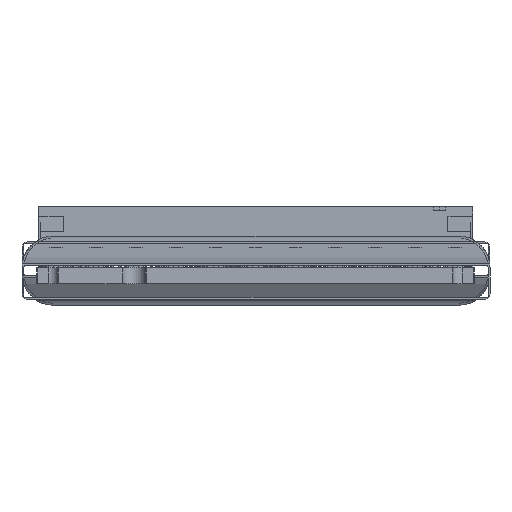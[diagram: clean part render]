
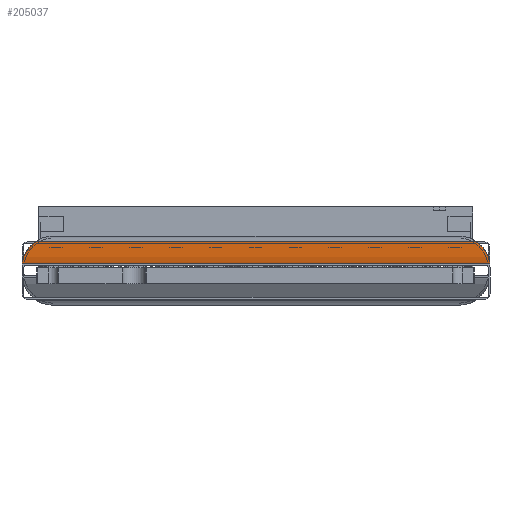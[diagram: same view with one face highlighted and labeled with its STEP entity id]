
A CAD part, front view. The second image highlights one B-rep face of the part: STEP entity #205037.
In plain terms, the highlighted free-form (B-spline) face has degree [3, 1] with [4, 2] control points.
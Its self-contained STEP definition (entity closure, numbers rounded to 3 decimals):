
#204921 = VERTEX_POINT('',#204922);
#204922 = CARTESIAN_POINT('',(23.586,0.,
    0.201));
#204929 = EDGE_CURVE('',#204921,#204930,#204932,.T.);
#204930 = VERTEX_POINT('',#204931);
#204931 = CARTESIAN_POINT('',(0.013,0.,
    0.201));
#204932 = LINE('',#204933,#204934);
#204933 = CARTESIAN_POINT('',(24.829,0.,
    0.201));
#204934 = VECTOR('',#204935,1.);
#204935 = DIRECTION('',(-1.,-0.,-0.));
#204991 = EDGE_CURVE('',#204992,#204994,#204996,.T.);
#204992 = VERTEX_POINT('',#204993);
#204993 = CARTESIAN_POINT('',(22.872,5.989,
    1.34));
#204994 = VERTEX_POINT('',#204995);
#204995 = CARTESIAN_POINT('',(0.727,5.989,
    1.34));
#204996 = LINE('',#204997,#204998);
#204997 = CARTESIAN_POINT('',(24.829,5.989,
    1.34));
#204998 = VECTOR('',#204999,1.);
#204999 = DIRECTION('',(-1.,-0.,-0.));
#205037 = ADVANCED_FACE('',(#205038),#205072,.F.);
#205038 = FACE_BOUND('',#205039,.F.);
#205039 = EDGE_LOOP('',(#205040,#205041,#205056,#205057));
#205040 = ORIENTED_EDGE('',*,*,#204929,.T.);
#205041 = ORIENTED_EDGE('',*,*,#205042,.F.);
#205042 = EDGE_CURVE('',#204994,#204930,#205043,.T.);
#205043 = B_SPLINE_CURVE_WITH_KNOTS('',3,(#205044,#205045,#205046,
    #205047,#205048,#205049,#205050,#205051,#205052,#205053,#205054,
    #205055),.UNSPECIFIED.,.F.,.F.,(4,2,2,2,2,4),(0.,0.001,
    0.002,0.003,0.005,
    0.006),.UNSPECIFIED.);
#205044 = CARTESIAN_POINT('',(0.727,5.989,
    1.34));
#205045 = CARTESIAN_POINT('',(0.601,5.774,
    1.259));
#205046 = CARTESIAN_POINT('',(0.511,5.546,
    1.177));
#205047 = CARTESIAN_POINT('',(0.363,5.077,
    1.02));
#205048 = CARTESIAN_POINT('',(0.306,4.834,
    0.944));
#205049 = CARTESIAN_POINT('',(0.168,4.099,
    0.732));
#205050 = CARTESIAN_POINT('',(0.118,3.598,
    0.611));
#205051 = CARTESIAN_POINT('',(0.051,2.582,
    0.413));
#205052 = CARTESIAN_POINT('',(0.035,2.069,
    0.338));
#205053 = CARTESIAN_POINT('',(0.016,1.037,
    0.233));
#205054 = CARTESIAN_POINT('',(0.013,0.519,
    0.205));
#205055 = CARTESIAN_POINT('',(0.013,0.,
    0.201));
#205056 = ORIENTED_EDGE('',*,*,#204991,.F.);
#205057 = ORIENTED_EDGE('',*,*,#205058,.T.);
#205058 = EDGE_CURVE('',#204992,#204921,#205059,.T.);
#205059 = B_SPLINE_CURVE_WITH_KNOTS('',3,(#205060,#205061,#205062,
    #205063,#205064,#205065,#205066,#205067,#205068,#205069,#205070,
    #205071),.UNSPECIFIED.,.F.,.F.,(4,2,2,2,2,4),(0.,0.001,
    0.002,0.003,0.005,
    0.006),.UNSPECIFIED.);
#205060 = CARTESIAN_POINT('',(22.872,5.989,
    1.34));
#205061 = CARTESIAN_POINT('',(22.997,5.774,
    1.259));
#205062 = CARTESIAN_POINT('',(23.088,5.546,
    1.177));
#205063 = CARTESIAN_POINT('',(23.236,5.077,
    1.02));
#205064 = CARTESIAN_POINT('',(23.293,4.834,
    0.944));
#205065 = CARTESIAN_POINT('',(23.431,4.099,
    0.732));
#205066 = CARTESIAN_POINT('',(23.481,3.598,
    0.611));
#205067 = CARTESIAN_POINT('',(23.548,2.582,
    0.413));
#205068 = CARTESIAN_POINT('',(23.564,2.069,
    0.338));
#205069 = CARTESIAN_POINT('',(23.583,1.037,
    0.233));
#205070 = CARTESIAN_POINT('',(23.586,0.519,
    0.205));
#205071 = CARTESIAN_POINT('',(23.586,0.,
    0.201));
#205072 = B_SPLINE_SURFACE_WITH_KNOTS('',3,1,(
    (#205073,#205074)
    ,(#205075,#205076)
    ,(#205077,#205078)
    ,(#205079,#205080
    )),.UNSPECIFIED.,.F.,.F.,.F.,(4,4),(2,2),(0.095,
    0.957),(0.,1.),.PIECEWISE_BEZIER_KNOTS.);
#205073 = CARTESIAN_POINT('',(23.728,5.989,
    1.34));
#205074 = CARTESIAN_POINT('',(-0.129,5.989,
    1.34));
#205075 = CARTESIAN_POINT('',(23.728,4.031,
    0.599));
#205076 = CARTESIAN_POINT('',(-0.129,4.031,
    0.599));
#205077 = CARTESIAN_POINT('',(23.728,2.031,
    0.219));
#205078 = CARTESIAN_POINT('',(-0.129,2.031,
    0.219));
#205079 = CARTESIAN_POINT('',(23.728,0.,
    0.201));
#205080 = CARTESIAN_POINT('',(-0.129,0.,
    0.201));
